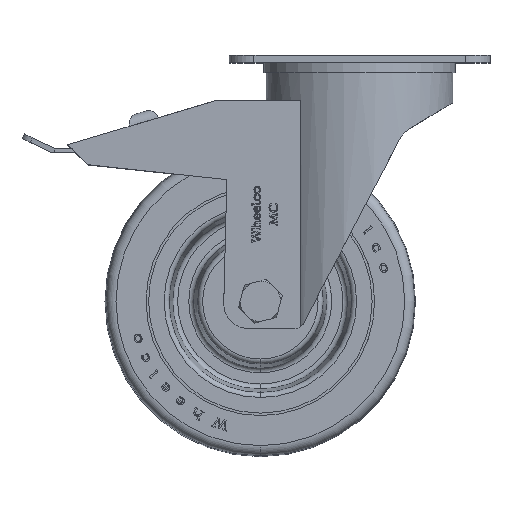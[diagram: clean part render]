
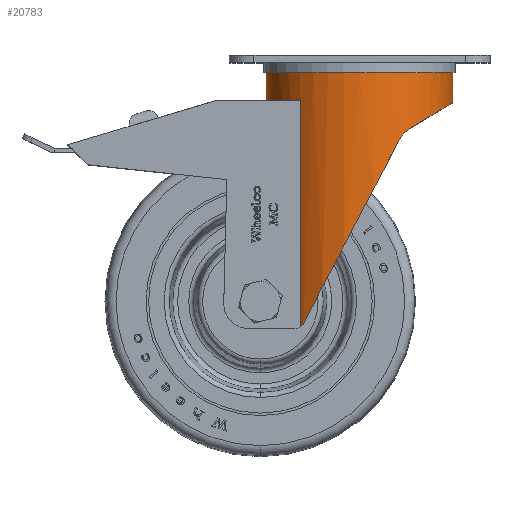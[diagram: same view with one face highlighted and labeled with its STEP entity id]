
A CAD part, top view. The second image highlights one B-rep face of the part: STEP entity #20783.
In plain terms, the highlighted cylindrical face has radius 37.5 mm (diameter 75 mm), a partial arc.
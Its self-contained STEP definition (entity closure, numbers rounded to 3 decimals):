
#172 = VERTEX_POINT ( 'NONE', #32493 ) ;
#829 = EDGE_CURVE ( 'NONE', #36399, #23335, #31877, .T. ) ;
#1093 = EDGE_CURVE ( 'NONE', #36399, #37286, #29919, .T. ) ;
#1694 = CARTESIAN_POINT ( 'NONE',  ( 29., 0.818, 23.775 ) ) ;
#2590 = CARTESIAN_POINT ( 'NONE',  ( 33.335, 78.114, -17.192 ) ) ;
#4630 = CARTESIAN_POINT ( 'NONE',  ( 0., 103., 0. ) ) ;
#4743 = B_SPLINE_CURVE_WITH_KNOTS ( 'NONE', 3,
 ( #50248, #46349, #2590, #22950, #6719, #38646, #45855, #50482 ),
 .UNSPECIFIED., .F., .F.,
 ( 4, 2, 2, 4 ),
 ( 0., 0.003, 0.004, 0.006 ),
 .UNSPECIFIED. ) ;
#6264 = EDGE_CURVE ( 'NONE', #51011, #50751, #16727, .T. ) ;
#6396 = EDGE_CURVE ( 'NONE', #9604, #50751, #40895, .T. ) ;
#6642 = CARTESIAN_POINT ( 'NONE',  ( 31.775, 80.449, -19.914 ) ) ;
#6719 = CARTESIAN_POINT ( 'NONE',  ( 32.632, 79.419, -18.482 ) ) ;
#7092 = VECTOR ( 'NONE', #9205, 1000. ) ;
#7913 = CARTESIAN_POINT ( 'NONE',  ( 0., 92., 0. ) ) ;
#8643 = CARTESIAN_POINT ( 'NONE',  ( 40.051, 51.608, -3.189 ) ) ;
#9205 = DIRECTION ( 'NONE',  ( 0., 1., 0. ) ) ;
#9288 = ORIENTED_EDGE ( 'NONE', *, *, #829, .F. ) ;
#9604 = VERTEX_POINT ( 'NONE', #24622 ) ;
#9655 = CARTESIAN_POINT ( 'NONE',  ( 33.822, 76.504, -16.196 ) ) ;
#9906 = AXIS2_PLACEMENT_3D ( 'NONE', #4630, #36552, #39425 ) ;
#11315 = EDGE_CURVE ( 'NONE', #9604, #172, #44496, .T. ) ;
#11722 = CARTESIAN_POINT ( 'NONE',  ( 13.207, 91., -37.5 ) ) ;
#12228 = VERTEX_POINT ( 'NONE', #6642 ) ;
#12407 = EDGE_LOOP ( 'NONE', ( #9288, #43260, #27550, #12608, #48392, #41489, #17811, #49428, #24514 ) ) ;
#12608 = ORIENTED_EDGE ( 'NONE', *, *, #11315, .F. ) ;
#12616 = CYLINDRICAL_SURFACE ( 'NONE', #9906, 37.5 ) ;
#16095 = CARTESIAN_POINT ( 'NONE',  ( 24.762, 87.163, -31.105 ) ) ;
#16727 =( BOUNDED_CURVE ( )  B_SPLINE_CURVE ( 3, ( #24900, #8643, #40600, #32350 ),
 .UNSPECIFIED., .F., .F. ) 
 B_SPLINE_CURVE_WITH_KNOTS ( ( 4, 4 ),
 ( 4.266, 5.361 ),
 .UNSPECIFIED. ) 
 CURVE ( )  GEOMETRIC_REPRESENTATION_ITEM ( )  RATIONAL_B_SPLINE_CURVE ( ( 1., 0.903, 0.903, 1. ) ) 
 REPRESENTATION_ITEM ( '' )  );
#17811 = ORIENTED_EDGE ( 'NONE', *, *, #47041, .T. ) ;
#18856 = CARTESIAN_POINT ( 'NONE',  ( 0., 103., 37.5 ) ) ;
#20783 = ADVANCED_FACE ( 'NONE', ( #35793 ), #12616, .T. ) ;
#21028 = CARTESIAN_POINT ( 'NONE',  ( 29.345, 1.178, 23.349 ) ) ;
#22950 = CARTESIAN_POINT ( 'NONE',  ( 32.821, 79.111, -18.143 ) ) ;
#23180 = CARTESIAN_POINT ( 'NONE',  ( 0., 91., -37.5 ) ) ;
#23335 = VERTEX_POINT ( 'NONE', #46779 ) ;
#23337 = CARTESIAN_POINT ( 'NONE',  ( 0., 91., -37.5 ) ) ;
#23375 = CARTESIAN_POINT ( 'NONE',  ( 0., 103., -37.5 ) ) ;
#23631 = DIRECTION ( 'NONE',  ( 0., -1., 0. ) ) ;
#24074 = VERTEX_POINT ( 'NONE', #23180 ) ;
#24447 = CARTESIAN_POINT ( 'NONE',  ( 0., 92., 37.5 ) ) ;
#24514 = ORIENTED_EDGE ( 'NONE', *, *, #33440, .F. ) ;
#24622 = CARTESIAN_POINT ( 'NONE',  ( 29., 0.818, 23.775 ) ) ;
#24900 = CARTESIAN_POINT ( 'NONE',  ( 33.822, 76.504, -16.196 ) ) ;
#24992 =( BOUNDED_CURVE ( )  B_SPLINE_CURVE ( 3, ( #23337, #11722, #16095, #31551 ),
 .UNSPECIFIED., .F., .T. ) 
 B_SPLINE_CURVE_WITH_KNOTS ( ( 4, 4 ),
 ( 3.142, 4.153 ),
 .UNSPECIFIED. ) 
 CURVE ( )  GEOMETRIC_REPRESENTATION_ITEM ( )  RATIONAL_B_SPLINE_CURVE ( ( 1., 0.917, 0.917, 1. ) ) 
 REPRESENTATION_ITEM ( '' )  );
#26125 = AXIS2_PLACEMENT_3D ( 'NONE', #47452, #27896, #43606 ) ;
#26577 = DIRECTION ( 'NONE',  ( 0., -1., 0. ) ) ;
#27515 = DIRECTION ( 'NONE',  ( 0., 0., -1. ) ) ;
#27550 = ORIENTED_EDGE ( 'NONE', *, *, #36417, .F. ) ;
#27896 = DIRECTION ( 'NONE',  ( 0., 1., 0. ) ) ;
#28563 = AXIS2_PLACEMENT_3D ( 'NONE', #7913, #30855, #27515 ) ;
#28755 = CARTESIAN_POINT ( 'NONE',  ( 29.18, 0.985, 23.555 ) ) ;
#29919 = LINE ( 'NONE', #18856, #48341 ) ;
#30855 = DIRECTION ( 'NONE',  ( 0., -1., 0. ) ) ;
#31085 = LINE ( 'NONE', #23375, #44041 ) ;
#31551 = CARTESIAN_POINT ( 'NONE',  ( 31.775, 80.449, -19.914 ) ) ;
#31877 = CIRCLE ( 'NONE', #26125, 37.5 ) ;
#32350 = CARTESIAN_POINT ( 'NONE',  ( 29.885, 2.148, 22.653 ) ) ;
#32493 = CARTESIAN_POINT ( 'NONE',  ( 29., 92., 23.775 ) ) ;
#32880 = CARTESIAN_POINT ( 'NONE',  ( 29.775, 1.871, 22.797 ) ) ;
#33440 = EDGE_CURVE ( 'NONE', #23335, #24074, #31085, .T. ) ;
#34814 = EDGE_CURVE ( 'NONE', #24074, #12228, #24992, .T. ) ;
#35745 = CARTESIAN_POINT ( 'NONE',  ( 29., 103., 23.775 ) ) ;
#35793 = FACE_OUTER_BOUND ( 'NONE', #12407, .T. ) ;
#36399 = VERTEX_POINT ( 'NONE', #42463 ) ;
#36417 = EDGE_CURVE ( 'NONE', #172, #37286, #46642, .T. ) ;
#36552 = DIRECTION ( 'NONE',  ( 0., -1., 0. ) ) ;
#36719 = CARTESIAN_POINT ( 'NONE',  ( 29.642, 1.619, 22.971 ) ) ;
#37286 = VERTEX_POINT ( 'NONE', #24447 ) ;
#38646 = CARTESIAN_POINT ( 'NONE',  ( 32.226, 79.975, -19.18 ) ) ;
#39425 = DIRECTION ( 'NONE',  ( 0., 0., -1. ) ) ;
#40600 = CARTESIAN_POINT ( 'NONE',  ( 38.597, 24.146, 11.16 ) ) ;
#40895 = B_SPLINE_CURVE_WITH_KNOTS ( 'NONE', 3,
 ( #1694, #28755, #21028, #36719, #32880, #48586 ),
 .UNSPECIFIED., .F., .F.,
 ( 4, 2, 4 ),
 ( 0., 0.001, 0.002 ),
 .UNSPECIFIED. ) ;
#41489 = ORIENTED_EDGE ( 'NONE', *, *, #6264, .F. ) ;
#42463 = CARTESIAN_POINT ( 'NONE',  ( 0., 103., 37.5 ) ) ;
#43260 = ORIENTED_EDGE ( 'NONE', *, *, #1093, .T. ) ;
#43606 = DIRECTION ( 'NONE',  ( 0., 0., 1. ) ) ;
#44041 = VECTOR ( 'NONE', #23631, 1000. ) ;
#44496 = LINE ( 'NONE', #35745, #7092 ) ;
#45855 = CARTESIAN_POINT ( 'NONE',  ( 32.009, 80.225, -19.542 ) ) ;
#46349 = CARTESIAN_POINT ( 'NONE',  ( 33.608, 77.359, -16.643 ) ) ;
#46642 = CIRCLE ( 'NONE', #28563, 37.5 ) ;
#46779 = CARTESIAN_POINT ( 'NONE',  ( 0., 103., -37.5 ) ) ;
#47041 = EDGE_CURVE ( 'NONE', #51011, #12228, #4743, .T. ) ;
#47452 = CARTESIAN_POINT ( 'NONE',  ( 0., 103., 0. ) ) ;
#48341 = VECTOR ( 'NONE', #26577, 1000. ) ;
#48392 = ORIENTED_EDGE ( 'NONE', *, *, #6396, .T. ) ;
#48586 = CARTESIAN_POINT ( 'NONE',  ( 29.885, 2.148, 22.653 ) ) ;
#49428 = ORIENTED_EDGE ( 'NONE', *, *, #34814, .F. ) ;
#50248 = CARTESIAN_POINT ( 'NONE',  ( 33.822, 76.504, -16.196 ) ) ;
#50360 = CARTESIAN_POINT ( 'NONE',  ( 29.885, 2.148, 22.653 ) ) ;
#50482 = CARTESIAN_POINT ( 'NONE',  ( 31.775, 80.449, -19.914 ) ) ;
#50751 = VERTEX_POINT ( 'NONE', #50360 ) ;
#51011 = VERTEX_POINT ( 'NONE', #9655 ) ;
